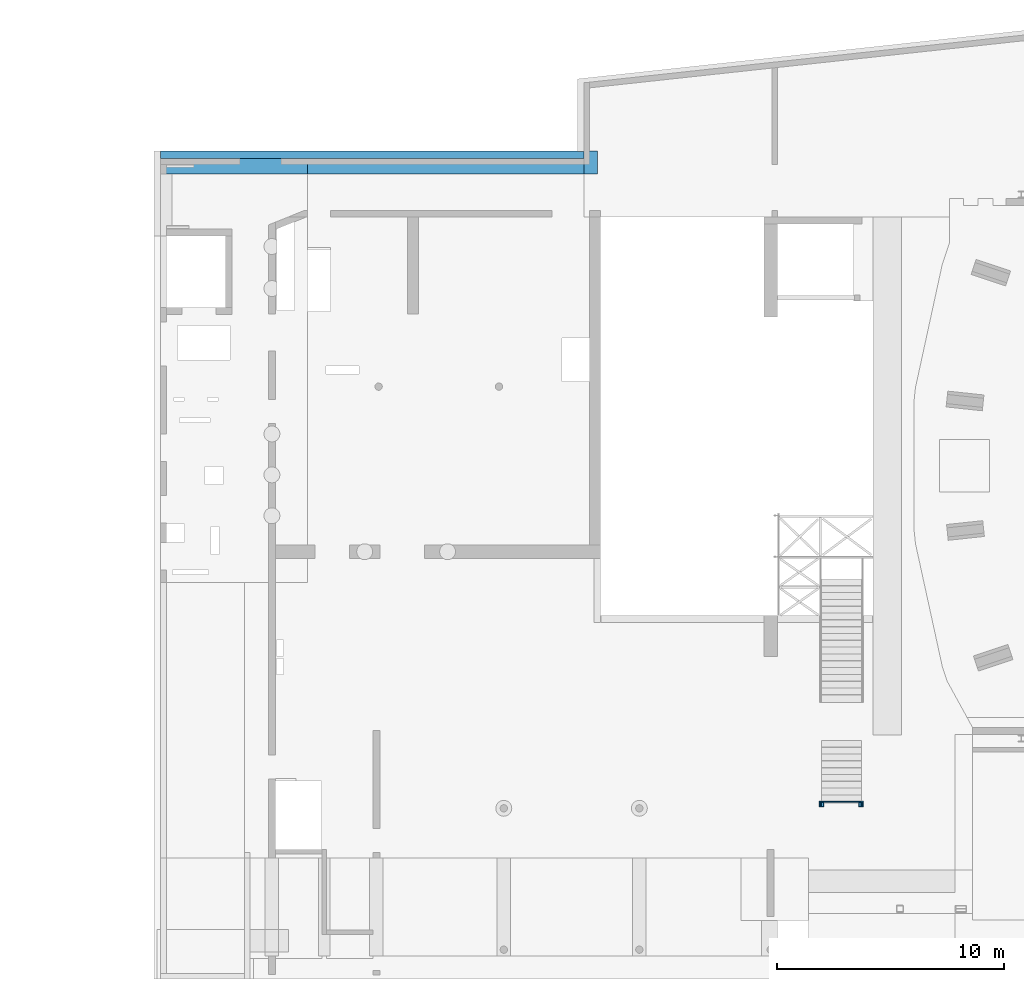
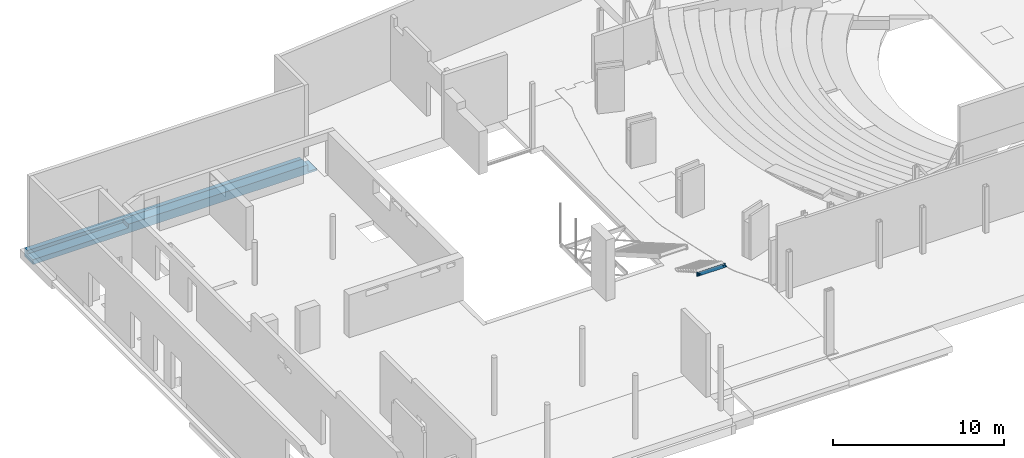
# One storey, part 30 of 34: 2 beams.
"""IFC2X3 building model written with IfcOpenShell, lengths in millimetres."""

import ifcopenshell
import ifcopenshell.guid

model = None  # the IFC model being written
_history = None  # IfcOwnerHistory: only IFC2X3 demands one
_inside = {}  # id of a spatial element -> (the spatial element, [elements in it])
_under = {}  # id of a project, library or spatial element -> (it, [spatial elements below it])
_declared = {}  # id of a project -> (the project, [libraries it declares])
_typed = {}  # id of a type object -> (the type object, [elements of that type])
_made_of = {}  # id of a material, layer set ... -> (it, [elements and type objects made of it])


def new_model(schema):
    """Start an empty IFC model of exactly this schema.

    Asked for "IFC4X3", IfcOpenShell would pick the latest addendum, in which some entities
    have other attributes; the version numbers below select the first issue.
    IFC2X3 requires an IfcOwnerHistory on every rooted entity: one is made here for all.
    """
    global model, _history
    if schema == "IFC4X3":
        model = ifcopenshell.file(schema_version=(4, 3, 0, 0))
    else:
        model = ifcopenshell.file(schema=schema)
    _inside.clear()
    _under.clear()
    _declared.clear()
    _typed.clear()
    _made_of.clear()
    _history = None
    if model.schema == "IFC2X3":
        org = make("IfcOrganization", Name="unknown")
        user = make(
            "IfcPersonAndOrganization",
            ThePerson=make("IfcPerson", FamilyName="unknown"),
            TheOrganization=org,
        )
        app = make(
            "IfcApplication",
            ApplicationDeveloper=org,
            Version="unknown",
            ApplicationFullName="unknown",
            ApplicationIdentifier="unknown",
        )
        _history = make(
            "IfcOwnerHistory",
            OwningUser=user,
            OwningApplication=app,
            ChangeAction="ADDED",
            CreationDate=0,
        )
    return model


def make(cls, **values):
    """One entity of the class cls with the attributes given. An attribute that is None is left unset."""
    return model.create_entity(
        cls, **{name: value for name, value in values.items() if value is not None}
    )


def entity(cls, *values):
    """Any entity or typed value of the class cls, its attributes in the order of the schema. None: left unset."""
    e = model.create_entity(cls)
    for i, value in enumerate(values):
        if value is not None:
            e[i] = value
    return e


def rooted(cls, **values):
    """An entity with a GlobalId (a new one), such as an element, a storey or a relation."""
    return make(cls, GlobalId=ifcopenshell.guid.new(), OwnerHistory=_history, **values)


def si_unit(unit_type, name, prefix=None):
    """IfcSIUnit, for example si_unit("LENGTHUNIT", "METRE", prefix="MILLI")."""
    return make("IfcSIUnit", UnitType=unit_type, Prefix=prefix, Name=name)


def converted_unit(unit_type, name, factor, base, dimensions=None, offset=None):
    """IfcConversionBasedUnit, such as the inch: factor (a typed value) times the base unit."""
    return make(
        "IfcConversionBasedUnit"
        if offset is None
        else "IfcConversionBasedUnitWithOffset",
        ConversionOffset=offset,
        Dimensions=None
        if dimensions is None
        else entity("IfcDimensionalExponents", *dimensions),
        UnitType=unit_type,
        Name=name,
        ConversionFactor=make(
            "IfcMeasureWithUnit", ValueComponent=factor, UnitComponent=base
        ),
    )


def derived_unit(unit_type, elements):
    """IfcDerivedUnit: a product of units, each with its exponent."""
    return make(
        "IfcDerivedUnit",
        Elements=[
            make("IfcDerivedUnitElement", Unit=unit, Exponent=power)
            for unit, power in elements
        ],
        UnitType=unit_type,
    )


def assignment(units):
    """IfcUnitAssignment: the units of a project."""
    return None if units is None else make("IfcUnitAssignment", Units=units)


def point(xyz):
    """IfcCartesianPoint."""
    return None if xyz is None else make("IfcCartesianPoint", Coordinates=xyz)


def direction(xyz):
    """IfcDirection."""
    return None if xyz is None else make("IfcDirection", DirectionRatios=xyz)


def frame(location, z_axis=None, x_axis=None):
    """IfcAxis2Placement3D, a coordinate frame: its origin and axes. An axis left out is left unset."""
    return make(
        "IfcAxis2Placement3D",
        Location=point(location),
        Axis=direction(z_axis),
        RefDirection=direction(x_axis),
    )


def origin():
    """The frame at (0, 0, 0) with its axes left unset."""
    return frame((0.0, 0.0, 0.0))


def place(relative_to, where):
    """IfcLocalPlacement: puts the frame where relative to a parent placement (None: the world)."""
    return make(
        "IfcLocalPlacement", PlacementRelTo=relative_to, RelativePlacement=where
    )


def context(
    kind, dimensions, precision=None, world=None, true_north=None, identifier=None
):
    """IfcGeometricRepresentationContext, for example the 3D "Model" context."""
    return make(
        "IfcGeometricRepresentationContext",
        ContextIdentifier=identifier,
        ContextType=kind,
        CoordinateSpaceDimension=dimensions,
        Precision=precision,
        WorldCoordinateSystem=world,
        TrueNorth=true_north,
    )


def subcontext(parent, identifier, kind, view, scale=None):
    """IfcGeometricRepresentationSubContext, for example "Body" below "Model"."""
    return make(
        "IfcGeometricRepresentationSubContext",
        ContextIdentifier=identifier,
        ContextType=kind,
        ParentContext=parent,
        TargetScale=scale,
        TargetView=view,
    )


def project(units=None, contexts=None):
    """IfcProject with its units and contexts."""
    return rooted(
        "IfcProject",
        Name="project",
        RepresentationContexts=contexts,
        UnitsInContext=assignment(units),
    )


def spatial(cls, under=None, at=None, **own):
    """A site, building, storey or space (cls), placed at a placement, below another one or the project."""
    s = rooted(cls, ObjectPlacement=at, **own)
    if under is not None:
        _under.setdefault(under.id(), (under, []))[1].append(s)
    return s


def faces_of(points, faces, orient=None, outer=None):
    """IfcFace entities. A face is a list of loops; a loop is a list of indices into points, from 0.

    orient and outer hold one flag for each loop. By default every Orientation is true, the
    first loop of a face is its IfcFaceOuterBound and the others are IfcFaceBound.
    """
    made = []
    for i, loops in enumerate(faces):
        bounds = []
        for j, loop in enumerate(loops):
            is_outer = j == 0 if outer is None else outer[i][j]
            bounds.append(
                make(
                    "IfcFaceOuterBound" if is_outer else "IfcFaceBound",
                    Bound=make("IfcPolyLoop", Polygon=[points[k] for k in loop]),
                    Orientation=True if orient is None else orient[i][j],
                )
            )
        made.append(make("IfcFace", Bounds=bounds))
    return made


def faceted_brep(points, faces, orient=None, outer=None, voids=None):
    """IfcFacetedBrep: a solid bounded by flat faces; with voids (closed shells), ...WithVoids."""
    shared = [point(p) for p in points]
    hull = make("IfcClosedShell", CfsFaces=faces_of(shared, faces, orient, outer))
    if voids is None:
        return make("IfcFacetedBrep", Outer=hull)
    return make(
        "IfcFacetedBrepWithVoids",
        Outer=hull,
        Voids=[
            make(cls, CfsFaces=faces_of(shared, fs, o, b)) for cls, fs, o, b in voids
        ],
    )


def shape(context_of_items, identifier, shape_type, items):
    """IfcShapeRepresentation: the items that make up one representation, for example the "Body"."""
    return make(
        "IfcShapeRepresentation",
        ContextOfItems=context_of_items,
        RepresentationIdentifier=identifier,
        RepresentationType=shape_type,
        Items=items,
    )


def source(mapping_origin, context_of_items, identifier, shape_type, items):
    """IfcRepresentationMap: a shape defined once, which mapped items show again and again."""
    return make(
        "IfcRepresentationMap",
        MappingOrigin=mapping_origin,
        MappedRepresentation=shape(context_of_items, identifier, shape_type, items),
    )


def transform(
    local_origin,
    x_axis=None,
    y_axis=None,
    z_axis=None,
    scale=None,
    scale2=None,
    scale3=None,
    uniform=True,
):
    """IfcCartesianTransformationOperator3D, or its non-uniform kind. x_axis, y_axis, z_axis: its Axis1, 2, 3."""
    if uniform:
        return make(
            "IfcCartesianTransformationOperator3D",
            Axis1=direction(x_axis),
            Axis2=direction(y_axis),
            LocalOrigin=point(local_origin),
            Scale=scale,
            Axis3=direction(z_axis),
        )
    return make(
        "IfcCartesianTransformationOperator3DnonUniform",
        Axis1=direction(x_axis),
        Axis2=direction(y_axis),
        LocalOrigin=point(local_origin),
        Scale=scale,
        Axis3=direction(z_axis),
        Scale2=scale2,
        Scale3=scale3,
    )


def mapped(mapping_source, mapping_target):
    """IfcMappedItem: shows the shape of a source again, moved by a transform."""
    return make(
        "IfcMappedItem", MappingSource=mapping_source, MappingTarget=mapping_target
    )


def material(Name=None, Category=None):
    """IfcMaterial."""
    return make("IfcMaterial", Name=Name, Category=Category)


def made_of(thing, what):
    """Note that an element or type object is made of a material, layer set ...; save() writes the relation."""
    if what is not None:
        _made_of.setdefault(what.id(), (what, []))[1].append(thing)
    return thing


def type_object(cls, material=None, **own):
    """A type object (cls), such as IfcWallType, which elements share."""
    return made_of(rooted(cls, **own), material)


def type_shapes(of_type, sources):
    """Give a type object the sources (RepresentationMaps) that its elements show as mapped items."""
    of_type.RepresentationMaps = sources


def element(
    cls,
    number,
    at=None,
    inside=None,
    cuts=None,
    type_object=None,
    material=None,
    context=None,
    identifier="Body",
    shape_type=None,
    held_by="IfcProductDefinitionShape",
    body=None,
    shapes=None,
    **own,
):
    """One element of the class cls, such as IfcWall. Its Tag is "e" and its number.

    at: its placement. inside: the storey or other place that contains it. cuts: it is an
    opening in that element (IfcRelVoidsElement). A single representation is given by context,
    identifier, shape_type and body (its items); several are given by shapes. held_by: the class
    of the entity that holds the representations. save() writes the other relations.
    """
    e = rooted(cls, Tag="e%d" % number, ObjectPlacement=at, **own)
    if body is not None:
        shapes = [shape(context, identifier, shape_type, body)]
    if shapes is not None:
        e.Representation = make(held_by, Representations=shapes)
    if inside is not None:
        _inside.setdefault(inside.id(), (inside, []))[1].append(e)
    if cuts is not None:
        rooted(
            "IfcRelVoidsElement", RelatingBuildingElement=cuts, RelatedOpeningElement=e
        )
    if type_object is not None:
        _typed.setdefault(type_object.id(), (type_object, []))[1].append(e)
    return made_of(e, material)


def aggregate(whole, parts):
    """IfcRelAggregates: a whole, such as a stair, and the parts it consists of."""
    return rooted("IfcRelAggregates", RelatingObject=whole, RelatedObjects=parts)


def save(model, path):
    """Write the relations noted so far, then the file.

    IfcRelAggregates (storeys below a building ...), IfcRelContainedInSpatialStructure (elements
    in a storey), IfcRelDefinesByType, IfcRelAssociatesMaterial and IfcRelDeclares: one each for
    every whole, place, type object, material and project.
    """
    for whole, parts in _under.values():
        aggregate(whole, parts)
    for where, things in _inside.values():
        rooted(
            "IfcRelContainedInSpatialStructure",
            RelatedElements=things,
            RelatingStructure=where,
        )
    for kind, things in _typed.values():
        rooted("IfcRelDefinesByType", RelatedObjects=things, RelatingType=kind)
    for what, things in _made_of.values():
        rooted("IfcRelAssociatesMaterial", RelatedObjects=things, RelatingMaterial=what)
    for by, libraries in _declared.values():
        rooted("IfcRelDeclares", RelatingContext=by, RelatedDefinitions=libraries)
    model.write(path)


model = new_model("IFC2X3")

# Units and contexts
model_context = context("Model", 3, precision=0.01, world=origin(), true_north=direction((6.12303176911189e-17, 1.0)))
body_context = subcontext(model_context, "Body", "Model", "MODEL_VIEW")
ifc_project = project(units=[si_unit("LENGTHUNIT", "METRE", prefix="MILLI"), si_unit("AREAUNIT", "SQUARE_METRE", prefix="MILLI"), si_unit("VOLUMEUNIT", "CUBIC_METRE"), converted_unit("PLANEANGLEUNIT", "DEGREE", entity("IfcRatioMeasure", 0.0174532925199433), si_unit("PLANEANGLEUNIT", "RADIAN"), dimensions=[0, 0, 0, 0, 0, 0, 0]), si_unit("MASSUNIT", "GRAM", prefix="KILO"), derived_unit("MASSDENSITYUNIT", [(si_unit("MASSUNIT", "GRAM", prefix="KILO"), 1), (si_unit("LENGTHUNIT", "METRE"), -3)]), derived_unit("MOMENTOFINERTIAUNIT", [(si_unit("LENGTHUNIT", "METRE"), 4)]), si_unit("TIMEUNIT", "SECOND"), si_unit("FREQUENCYUNIT", "HERTZ"), si_unit("THERMODYNAMICTEMPERATUREUNIT", "DEGREE_CELSIUS"), derived_unit("THERMALTRANSMITTANCEUNIT", [(si_unit("MASSUNIT", "GRAM", prefix="KILO"), 1), (si_unit("THERMODYNAMICTEMPERATUREUNIT", "KELVIN"), -1), (si_unit("TIMEUNIT", "SECOND"), -3)]), derived_unit("VOLUMETRICFLOWRATEUNIT", [(si_unit("LENGTHUNIT", "METRE"), 3), (si_unit("TIMEUNIT", "SECOND"), -1)]), si_unit("ELECTRICCURRENTUNIT", "AMPERE"), si_unit("ELECTRICVOLTAGEUNIT", "VOLT"), si_unit("POWERUNIT", "WATT"), si_unit("FORCEUNIT", "NEWTON", prefix="KILO"), si_unit("ILLUMINANCEUNIT", "LUX"), si_unit("LUMINOUSFLUXUNIT", "LUMEN"), si_unit("LUMINOUSINTENSITYUNIT", "CANDELA"), derived_unit("USERDEFINED", [(si_unit("MASSUNIT", "GRAM", prefix="KILO"), -1), (si_unit("LENGTHUNIT", "METRE"), -2), (si_unit("TIMEUNIT", "SECOND"), 3), (si_unit("LUMINOUSFLUXUNIT", "LUMEN"), 1)]), derived_unit("LINEARVELOCITYUNIT", [(si_unit("LENGTHUNIT", "METRE"), 1), (si_unit("TIMEUNIT", "SECOND"), -1)]), si_unit("PRESSUREUNIT", "PASCAL"), derived_unit("USERDEFINED", [(si_unit("LENGTHUNIT", "METRE"), -2), (si_unit("MASSUNIT", "GRAM", prefix="KILO"), 1), (si_unit("TIMEUNIT", "SECOND"), -2)]), derived_unit("LINEARFORCEUNIT", [(si_unit("MASSUNIT", "GRAM", prefix="KILO"), 1), (si_unit("LENGTHUNIT", "METRE"), 1), (si_unit("TIMEUNIT", "SECOND"), -2), (si_unit("LENGTHUNIT", "METRE"), -1)]), derived_unit("PLANARFORCEUNIT", [(si_unit("MASSUNIT", "GRAM", prefix="KILO"), 1), (si_unit("LENGTHUNIT", "METRE"), 1), (si_unit("TIMEUNIT", "SECOND"), -2), (si_unit("LENGTHUNIT", "METRE"), -2)])], contexts=[model_context])

# Site, building, storey
site_placement = place(None, origin())
site = spatial("IfcSite", under=ifc_project, at=site_placement, Name="Theater aan de Parade", CompositionType="ELEMENT")
building_placement = place(site_placement, origin())
building = spatial("IfcBuilding", under=site, at=building_placement, Name="Theater aan de Parade", CompositionType="ELEMENT")
storey_placement = place(building_placement, frame((0.0, 0.0, 3.49116848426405e-09)))
storey = spatial("IfcBuildingStorey", under=building, at=storey_placement, Name="00 begane grond", CompositionType="ELEMENT", Elevation=3.49116848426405e-09)

# Beams
ifc_material_1 = material(Name="00_PBT_MAT_beton t.p.g._C30/37")
beam_type_1 = type_object("IfcBeamType", Name="28_PBT_SF_betonbalk enkele sponning:C30/37_1000x950/330x350_bestaand", PredefinedType="NOTDEFINED")
beam_1_placement = place(storey_placement, frame((10304.11255372, 45303.0, -1040.0)))
element("IfcBeam", 1, at=beam_1_placement, inside=storey, type_object=beam_type_1, material=ifc_material_1, Name="28_PBT_SF_betonbalk enkele sponning:C30/37_1000x950/330x350_bestaand", ObjectType="28_PBT_SF_betonbalk enkele sponning:C30/37_1000x950/330x350_bestaand", context=body_context, shape_type="Brep", body=[
    faceted_brep([(19234.7850125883, 0.0, 0.0), (19234.7850125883, 1000.0, 0.0), (19234.7850125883, 1000.0, 150.0), (19234.7850125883, 0.0, 150.0), (18634.7850125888, 670.0, 630.0), (18634.7850125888, 670.0, 600.0), (6470.88744628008, 670.0, 600.0), (6470.88744628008, 670.0, 630.0), (0.0, 670.0, 600.0), (18634.7850125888, 991.0, 600.0), (18344.7850125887, 991.0, 600.0), (18344.7850125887, 1000.0, 600.0), (0.0, 1000.0, 600.0), (18634.7850125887, 0.0, 630.0), (6470.88744628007, 0.0, 630.0), (6470.88744628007, 0.0, 350.0), (500.0, 0.0, 350.0), (0.0, 0.0, 350.0), (0.0, 0.0, 0.0), (500.0, 0.0, 0.0), (18634.7850125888, 0.0, 150.0), (0.0, 1000.0, 0.0), (18344.7850125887, 1000.0, 150.0), (6470.88744628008, 670.0, 350.0), (0.0, 670.0, 350.0), (18344.7850125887, 991.0, 150.0), (18634.7850125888, 991.0, 150.0)], [[[0, 1, 2, 3]], [[4, 5, 6, 7]], [[8, 6, 5, 9, 10, 11, 12]], [[13, 14, 15, 16, 17, 18, 19, 0, 3, 20]], [[1, 0, 19, 18, 21]], [[22, 2, 1, 21, 12, 11]], [[14, 13, 4, 7]], [[23, 24, 17, 16, 15]], [[24, 23, 6, 8]], [[6, 23, 15, 14, 7]], [[20, 3, 2, 22, 25, 26]], [[5, 4, 13, 20, 26, 9]], [[26, 25, 10, 9]], [[10, 25, 22, 11]], [[8, 12, 21, 18, 17, 24]]]),
])
ifc_material_2 = material(Name="00_PBT_MAT_staal_S355")
beam_type_2 = type_object("IfcBeamType", Name="28_PBT_SF_staal_trapboom_oplegplaat:kopplaat", PredefinedType="BEAM", material=ifc_material_2)
shared_shape = source(origin(), body_context, "Body", "Brep", [
    faceted_brep([(30.0, 0.0, 0.0), (0.0, 0.0, 0.0), (0.0, 0.0, -310.0), (30.0, 0.0, -310.0), (30.0, 1940.0, 0.0), (30.0, 1940.0, -310.0), (0.0, 1940.0, -310.0), (0.0, 1940.0, 0.0), (30.0, 90.0, 0.0), (0.0, 90.0, 0.0), (0.0, 90.0, -20.0), (0.0, 1850.0, -20.0), (0.0, 1850.0, 0.0), (30.0, 1850.0, 0.0), (30.0, 1850.0, -20.0), (30.0, 90.0, -20.0)], [[[0, 1, 2, 3]], [[4, 5, 6, 7]], [[1, 0, 8, 9]], [[2, 1, 9, 10, 11, 12, 7, 6]], [[3, 2, 6, 5]], [[0, 3, 5, 4, 13, 14, 15, 8]], [[10, 15, 14, 11]], [[11, 14, 13, 12]], [[15, 10, 9, 8]], [[4, 7, 12, 13]]]),
    faceted_brep([(0.0, 60.0, -120.0), (0.0, 60.0, -20.0), (-200.0, 60.0, -70.0), (-200.0, 60.0, -120.0), (0.0, 90.0, -120.0), (-200.0, 90.0, -120.0), (-200.0, 90.0, -70.0), (0.0, 90.0, -20.0)], [[[0, 1, 2, 3]], [[4, 5, 6, 7]], [[1, 0, 4, 7]], [[2, 1, 7, 6]], [[3, 2, 6, 5]], [[0, 3, 5, 4]]]),
    faceted_brep([(0.0, 1850.0, -120.0), (0.0, 1850.0, -20.0), (-200.0, 1850.0, -70.0), (-200.0, 1850.0, -120.0), (0.0, 1880.0, -120.0), (-200.0, 1880.0, -120.0), (-200.0, 1880.0, -70.0), (0.0, 1880.0, -20.0)], [[[0, 1, 2, 3]], [[4, 5, 6, 7]], [[1, 0, 4, 7]], [[2, 1, 7, 6]], [[3, 2, 6, 5]], [[0, 3, 5, 4]]]),
    faceted_brep([(0.0, 1740.0, -140.0), (0.0, 1740.0, -120.0), (-200.0, 1740.0, -120.0), (-200.0, 1740.0, -140.0), (0.0, 1940.0, -140.0), (-200.0, 1940.0, -140.0), (-200.0, 1940.0, -120.0), (0.0, 1940.0, -120.0)], [[[0, 1, 2, 3]], [[4, 5, 6, 7]], [[1, 0, 4, 7]], [[2, 1, 7, 6]], [[3, 2, 6, 5]], [[0, 3, 5, 4]]]),
    faceted_brep([(0.0, 0.0, -140.0), (0.0, 0.0, -120.0), (-200.0, 0.0, -120.0), (-200.0, 0.0, -140.0), (0.0, 200.0, -140.0), (-200.0, 200.0, -140.0), (-200.0, 200.0, -120.0), (0.0, 200.0, -120.0)], [[[0, 1, 2, 3]], [[4, 5, 6, 7]], [[1, 0, 4, 7]], [[2, 1, 7, 6]], [[3, 2, 6, 5]], [[0, 3, 5, 4]]]),
])
type_shapes(beam_type_2, [shared_shape])
beam_2_placement = place(storey_placement, frame((41236.8281932, 17650.244375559, 5020.0), z_axis=(0.0, 0.0, 1.0), x_axis=(0.0, 1.0, 0.0)))
element("IfcBeam", 2, at=beam_2_placement, inside=storey, type_object=beam_type_2, material=ifc_material_2, Name="28_PBT_SF_staal_trapboom_oplegplaat:kopplaat", ObjectType="28_PBT_SF_staal_trapboom_oplegplaat:kopplaat", context=body_context, shape_type="MappedRepresentation", body=[
    mapped(shared_shape, transform((0.0, 0.0, 0.0), scale=1.0)),
])

save(model, "model.ifc")
